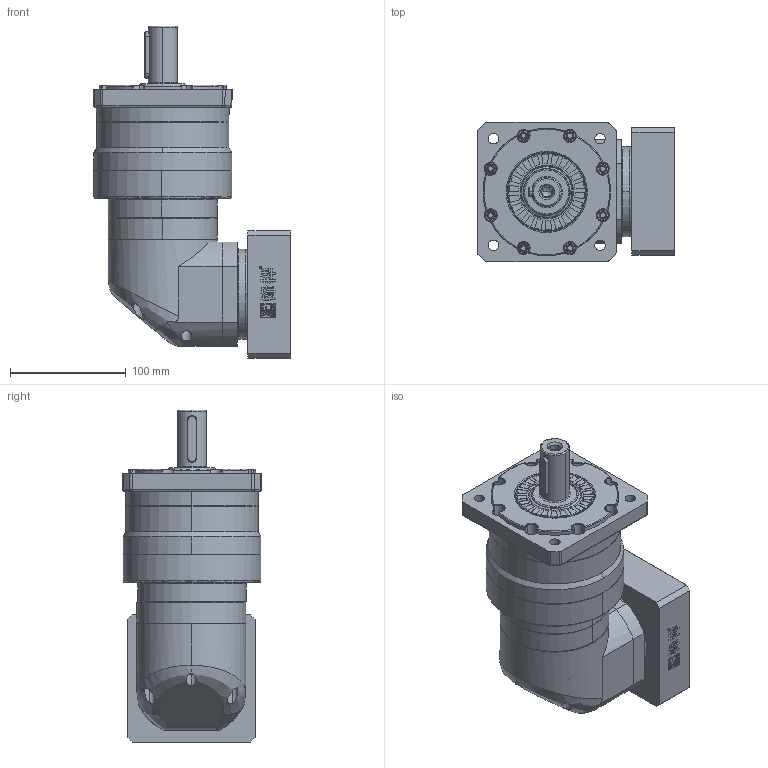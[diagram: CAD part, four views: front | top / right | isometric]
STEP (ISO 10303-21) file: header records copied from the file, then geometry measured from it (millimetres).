
FILE_DESCRIPTION (( 'STEP AP214' ), '1' );
FILE_NAME ('FBR120-L2-S2-P2 19-95-130-M8.STEP', '2021-04-23T07:27:23', ( 'Microsoft' ), ( 'Microsoft China' ), 'SwSTEP 2.0', 'SolidWorks 2016', '' );
FILE_SCHEMA (( 'AUTOMOTIVE_DESIGN' ));
Length unit declared in the file: millimetre
Products named in the file (13): FBR120-L2-S2-P2 19-95-130-M8; す瑩8X40; 输入轴锁紧环 23-52-14; 输入轴FBR090D-19; 输入法兰FBR090D-95-130-M8; 输入端壳体FBR090D; 怀堤俴陎殤FBR115D-25X50XM10; 蚐猾40x68x8; 怀堤傷褲极FBR120; 内齿圈FBR120; 怀堤傷褲极FBR090D; 一级内齿圈壳体FBR090D; 珨撰眻褒眊极FBR090D+菜え
Assembly tree (12 placements, depth 2):
  FBR120-L2-S2-P2 19-95-130-M8
    珨撰眻褒眊极FBR090D+菜え
    一级内齿圈壳体FBR090D
    怀堤傷褲极FBR090D
    内齿圈FBR120
    怀堤傷褲极FBR120
    蚐猾40x68x8
    怀堤俴陎殤FBR115D-25X50XM10
    输入端壳体FBR090D
    输入法兰FBR090D-95-130-M8
    输入轴FBR090D-19
    输入轴锁紧环 23-52-14
    す瑩8X40
Bounding box: 170.49 x 120 x 286.5 mm (x, y, z)
Volume: 1765074.3 mm3; surface area: 310659.1 mm2
Topology: 11 solids, 13 shells, 1234 faces, 3157 edges, 2040 vertices
Faces by surface type: plane 508, cylinder 294, bspline 211, cone 172, torus 49
Entity records: 62217 total; most frequent: CARTESIAN_POINT 20309, ORIENTED_EDGE 6235, DIRECTION 5310, EDGE_CURVE 3147, VERTEX_POINT 2040, AXIS2_PLACEMENT_3D 1855, LINE 1600, VECTOR 1600
